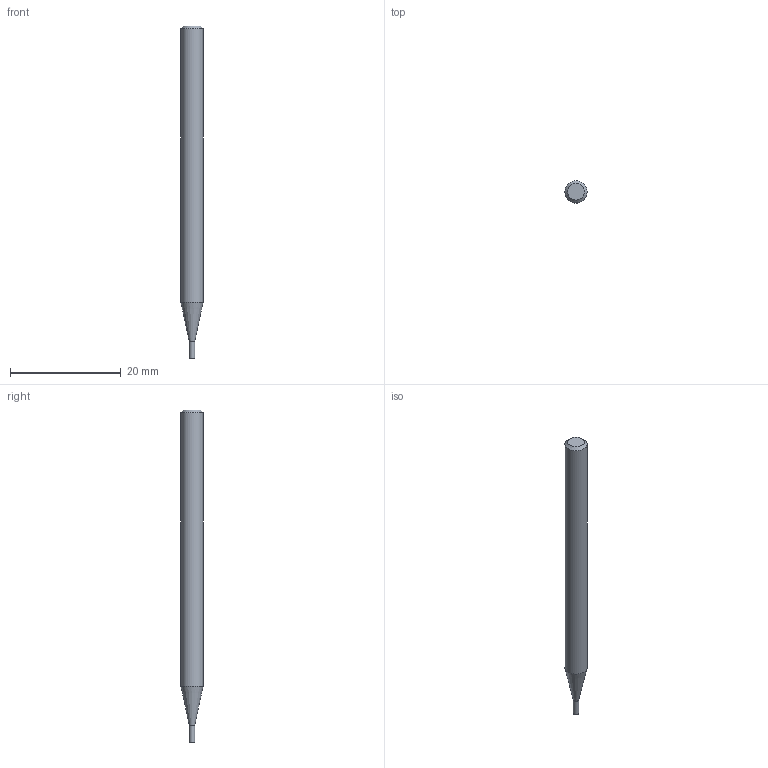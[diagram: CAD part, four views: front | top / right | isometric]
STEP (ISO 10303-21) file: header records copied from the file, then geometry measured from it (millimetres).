
FILE_DESCRIPTION((''),'2;1');
FILE_NAME('C:\Users\nsx150\AppData\Local\Temp\Mastercam 2021\W9Z147XDNF\TEMP.step','2021-04-08T14:45:43',(''),(''),'STEP Write','Mastercam 2021 ... CNC Software, Inc.','');
FILE_SCHEMA(('AUTOMOTIVE_DESIGN'));
Length unit declared in the file: millimetre
Products named in the file (1): None
Bounding box: 4 x 4 x 60 mm (x, y, z)
Volume: 667.3 mm3; surface area: 704.6 mm2
Topology: 2 solids, 2 shells, 8 faces, 10 edges, 6 vertices
Faces by surface type: plane 4, cylinder 2, cone 2
Full cylindrical faces by diameter (mm): 1 x1, 4 x1
Entity records: 190 total; most frequent: DIRECTION 32, CARTESIAN_POINT 22, AXIS2_PLACEMENT_3D 16, ORIENTED_EDGE 12, EDGE_LOOP 12, STYLED_ITEM 11, ADVANCED_FACE 8, VERTEX_POINT 6
